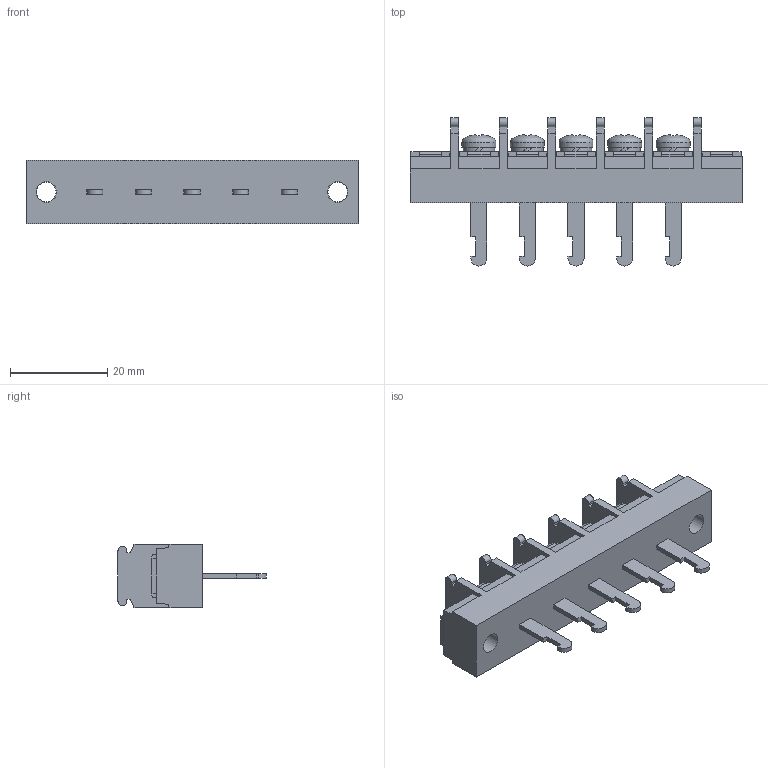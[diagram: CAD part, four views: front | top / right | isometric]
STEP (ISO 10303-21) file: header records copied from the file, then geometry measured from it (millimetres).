
FILE_DESCRIPTION(/* description */ ('Alibre Inc.'),/* implementation_level */ '2;1');
FILE_NAME(/* name */ 'export0',/* time_stamp */ '2015-10-17T19:12:01+09:00',/* author */ (''),/* organization */ (''),/* preprocessor_version */ 'ST-DEVELOPER v14',/* originating_system */ 'Alibre',/* authorisation */ '');
FILE_SCHEMA (('CONFIG_CONTROL_DESIGN'));
Length unit declared in the file: centimetre
Products named in the file (1): ID_1
Bounding box: 68.4 x 30.5 x 13 mm (x, y, z)
Volume: 10008.4 mm3; surface area: 6251.4 mm2
Topology: 1 solids, 17 shells, 775 faces, 2093 edges, 1391 vertices
Faces by surface type: plane 586, bspline 104, cylinder 50, cone 20, torus 10, sphere 5
Full cylindrical faces by diameter (mm): 4 x7, 4.2 x2, 6.5 x5, 7 x5
Entity records: 23458 total; most frequent: CARTESIAN_POINT 5278, ORIENTED_EDGE 4104, DIRECTION 2787, EDGE_CURVE 2052, VECTOR 1554, LINE 1554, VERTEX_POINT 1374, AXIS2_PLACEMENT_3D 902
